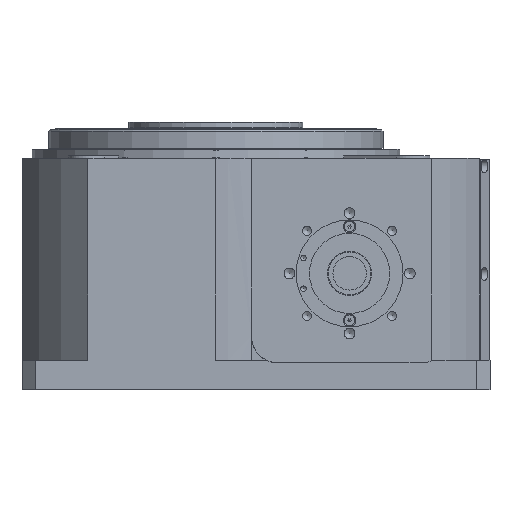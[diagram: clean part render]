
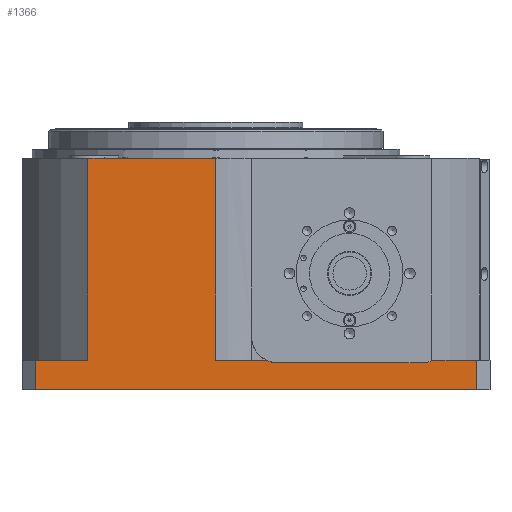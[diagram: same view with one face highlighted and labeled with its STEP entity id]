
A CAD part, front view. The second image highlights one B-rep face of the part: STEP entity #1366.
In plain terms, the highlighted planar face has unit normal (0, -1, 0).
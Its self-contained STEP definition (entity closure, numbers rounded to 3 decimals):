
#1366 = ADVANCED_FACE( '', ( #3062 ), #3063, .F. );
#3062 = FACE_OUTER_BOUND( '', #6021, .T. );
#3063 = PLANE( '', #6022 );
#6021 = EDGE_LOOP( '', ( #16325, #16326, #16327, #16328, #16329, #16330, #16331, #16332, #16333, #16334, #16335, #16336 ) );
#6022 = AXIS2_PLACEMENT_3D( '', #16337, #16338, #16339 );
#16325 = ORIENTED_EDGE( '', *, *, #21213, .F. );
#16326 = ORIENTED_EDGE( '', *, *, #20979, .F. );
#16327 = ORIENTED_EDGE( '', *, *, #21214, .F. );
#16328 = ORIENTED_EDGE( '', *, *, #20972, .T. );
#16329 = ORIENTED_EDGE( '', *, *, #21215, .F. );
#16330 = ORIENTED_EDGE( '', *, *, #21216, .T. );
#16331 = ORIENTED_EDGE( '', *, *, #21217, .F. );
#16332 = ORIENTED_EDGE( '', *, *, #21218, .T. );
#16333 = ORIENTED_EDGE( '', *, *, #21219, .T. );
#16334 = ORIENTED_EDGE( '', *, *, #20962, .T. );
#16335 = ORIENTED_EDGE( '', *, *, #21220, .F. );
#16336 = ORIENTED_EDGE( '', *, *, #21221, .F. );
#16337 = CARTESIAN_POINT( '', ( -145., -142.5, 183. ) );
#16338 = DIRECTION( '', ( 0., 1., 0. ) );
#16339 = DIRECTION( '', ( 0., 0., 1. ) );
#20962 = EDGE_CURVE( '', #23378, #23382, #23384, .T. );
#20972 = EDGE_CURVE( '', #23402, #23400, #23403, .T. );
#20979 = EDGE_CURVE( '', #23412, #23414, #23415, .T. );
#21213 = EDGE_CURVE( '', #23414, #23795, #23796, .T. );
#21214 = EDGE_CURVE( '', #23402, #23412, #23797, .T. );
#21215 = EDGE_CURVE( '', #23798, #23400, #23799, .T. );
#21216 = EDGE_CURVE( '', #23798, #23800, #23801, .F. );
#21217 = EDGE_CURVE( '', #23802, #23800, #23803, .T. );
#21218 = EDGE_CURVE( '', #23802, #23804, #23805, .T. );
#21219 = EDGE_CURVE( '', #23804, #23378, #23806, .T. );
#21220 = EDGE_CURVE( '', #23807, #23382, #23808, .T. );
#21221 = EDGE_CURVE( '', #23795, #23807, #23809, .T. );
#23378 = VERTEX_POINT( '', #26721 );
#23382 = VERTEX_POINT( '', #26727 );
#23384 = LINE( '', #26730, #26731 );
#23400 = VERTEX_POINT( '', #26751 );
#23402 = VERTEX_POINT( '', #26753 );
#23403 = LINE( '', #26754, #26755 );
#23412 = VERTEX_POINT( '', #26764 );
#23414 = VERTEX_POINT( '', #26767 );
#23415 = CIRCLE( '', #26768, 20. );
#23795 = VERTEX_POINT( '', #27612 );
#23796 = LINE( '', #27613, #27614 );
#23797 = LINE( '', #27615, #27616 );
#23798 = VERTEX_POINT( '', #27617 );
#23799 = LINE( '', #27618, #27619 );
#23800 = VERTEX_POINT( '', #27620 );
#23801 = LINE( '', #27621, #27622 );
#23802 = VERTEX_POINT( '', #27623 );
#23803 = LINE( '', #27624, #27625 );
#23804 = VERTEX_POINT( '', #27626 );
#23805 = LINE( '', #27627, #27628 );
#23806 = LINE( '', #27629, #27630 );
#23807 = VERTEX_POINT( '', #27631 );
#23808 = LINE( '', #27632, #27633 );
#23809 = CIRCLE( '', #27634, 20. );
#26721 = CARTESIAN_POINT( '', ( 195., -142.5, 4. ) );
#26727 = CARTESIAN_POINT( '', ( 195., -142.5, 26. ) );
#26730 = CARTESIAN_POINT( '', ( 195., -142.5, 183. ) );
#26731 = VECTOR( '', #32224, 1000. );
#26751 = CARTESIAN_POINT( '', ( 0., -142.5, 177. ) );
#26753 = CARTESIAN_POINT( '', ( 0., -142.5, 26. ) );
#26754 = CARTESIAN_POINT( '', ( 0., -142.5, -1365.182 ) );
#26755 = VECTOR( '', #32238, 1000. );
#26764 = CARTESIAN_POINT( '', ( 37.858, -142.5, 26. ) );
#26767 = CARTESIAN_POINT( '', ( 46.575, -142.5, 24. ) );
#26768 = AXIS2_PLACEMENT_3D( '', #32249, #32250, #32251 );
#27612 = CARTESIAN_POINT( '', ( 153.452, -142.5, 24. ) );
#27613 = CARTESIAN_POINT( '', ( 46.575, -142.5, 24. ) );
#27614 = VECTOR( '', #32608, 1000. );
#27615 = CARTESIAN_POINT( '', ( -145., -142.5, 26. ) );
#27616 = VECTOR( '', #32609, 1000. );
#27617 = CARTESIAN_POINT( '', ( -95.673, -142.5, 177. ) );
#27618 = CARTESIAN_POINT( '', ( -145., -142.5, 177. ) );
#27619 = VECTOR( '', #32610, 1000. );
#27620 = CARTESIAN_POINT( '', ( -95.673, -142.5, 26. ) );
#27621 = CARTESIAN_POINT( '', ( -95.673, -142.5, 26. ) );
#27622 = VECTOR( '', #32611, 1000. );
#27623 = CARTESIAN_POINT( '', ( -135., -142.5, 26. ) );
#27624 = CARTESIAN_POINT( '', ( -145., -142.5, 26. ) );
#27625 = VECTOR( '', #32612, 1000. );
#27626 = CARTESIAN_POINT( '', ( -135., -142.5, 4. ) );
#27627 = CARTESIAN_POINT( '', ( -135., -142.5, 183. ) );
#27628 = VECTOR( '', #32613, 1000. );
#27629 = CARTESIAN_POINT( '', ( -145., -142.5, 4. ) );
#27630 = VECTOR( '', #32614, 1000. );
#27631 = CARTESIAN_POINT( '', ( 162.17, -142.5, 26. ) );
#27632 = CARTESIAN_POINT( '', ( -145., -142.5, 26. ) );
#27633 = VECTOR( '', #32615, 1000. );
#27634 = AXIS2_PLACEMENT_3D( '', #32616, #32617, #32618 );
#32224 = DIRECTION( '', ( 0., 0., 1. ) );
#32238 = DIRECTION( '', ( 0., 0., 1. ) );
#32249 = CARTESIAN_POINT( '', ( 46.575, -142.5, 44. ) );
#32250 = DIRECTION( '', ( 0., -1., 0. ) );
#32251 = DIRECTION( '', ( -1., 0., 0. ) );
#32608 = DIRECTION( '', ( 1., 0., 0. ) );
#32609 = DIRECTION( '', ( 1., 0., 0. ) );
#32610 = DIRECTION( '', ( 1., 0., 0. ) );
#32611 = DIRECTION( '', ( 0., 0., 1. ) );
#32612 = DIRECTION( '', ( 1., 0., 0. ) );
#32613 = DIRECTION( '', ( 0., 0., -1. ) );
#32614 = DIRECTION( '', ( 1., 0., 0. ) );
#32615 = DIRECTION( '', ( 1., 0., 0. ) );
#32616 = CARTESIAN_POINT( '', ( 153.452, -142.5, 44. ) );
#32617 = DIRECTION( '', ( 0., -1., 0. ) );
#32618 = DIRECTION( '', ( -1., 0., 0. ) );
